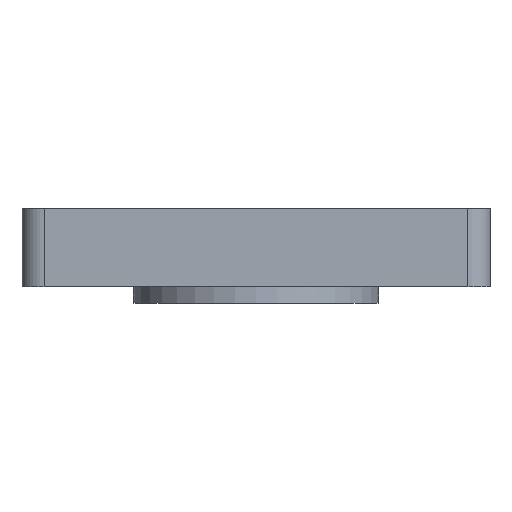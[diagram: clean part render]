
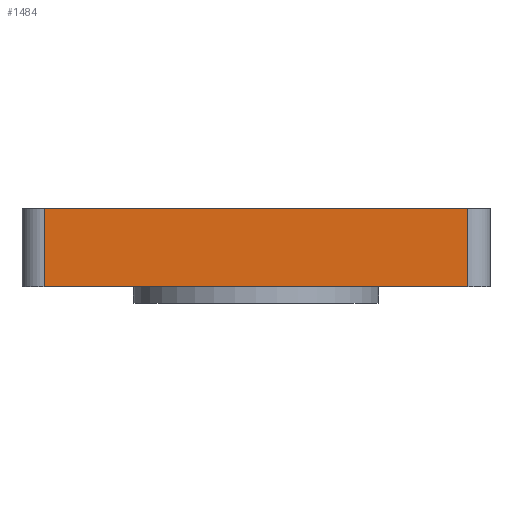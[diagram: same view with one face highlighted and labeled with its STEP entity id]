
A CAD part, front view. The second image highlights one B-rep face of the part: STEP entity #1484.
In plain terms, the highlighted planar face has unit normal (0, -1, 0).
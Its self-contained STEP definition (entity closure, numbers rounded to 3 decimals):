
#92 = EDGE_CURVE ( 'NONE', #1848, #1169, #1514, .T. ) ;
#146 = VECTOR ( 'NONE', #1212, 1000. ) ;
#220 = DIRECTION ( 'NONE',  ( 0., 0., 1. ) ) ;
#240 = CARTESIAN_POINT ( 'NONE',  ( 2., 0., 0. ) ) ;
#257 = ORIENTED_EDGE ( 'NONE', *, *, #92, .T. ) ;
#287 = EDGE_CURVE ( 'NONE', #1169, #1069, #2164, .T. ) ;
#380 = PLANE ( 'NONE',  #554 ) ;
#401 = DIRECTION ( 'NONE',  ( 1., 0., 0. ) ) ;
#439 = ORIENTED_EDGE ( 'NONE', *, *, #476, .F. ) ;
#468 = CARTESIAN_POINT ( 'NONE',  ( 0., 0., 7. ) ) ;
#476 = EDGE_CURVE ( 'NONE', #1848, #815, #1296, .T. ) ;
#551 = LINE ( 'NONE', #1934, #146 ) ;
#554 = AXIS2_PLACEMENT_3D ( 'NONE', #1045, #1729, #220 ) ;
#561 = EDGE_LOOP ( 'NONE', ( #1939, #680, #439, #257 ) ) ;
#656 = CARTESIAN_POINT ( 'NONE',  ( 40., 0., 0. ) ) ;
#680 = ORIENTED_EDGE ( 'NONE', *, *, #731, .T. ) ;
#731 = EDGE_CURVE ( 'NONE', #1069, #815, #551, .T. ) ;
#815 = VERTEX_POINT ( 'NONE', #1814 ) ;
#967 = DIRECTION ( 'NONE',  ( 1., 0., 0. ) ) ;
#1045 = CARTESIAN_POINT ( 'NONE',  ( 0., 0., 7. ) ) ;
#1069 = VERTEX_POINT ( 'NONE', #656 ) ;
#1122 = VECTOR ( 'NONE', #401, 1000. ) ;
#1133 = DIRECTION ( 'NONE',  ( 0., 0., -1. ) ) ;
#1169 = VERTEX_POINT ( 'NONE', #240 ) ;
#1194 = CARTESIAN_POINT ( 'NONE',  ( 2., 0., 7. ) ) ;
#1205 = FACE_OUTER_BOUND ( 'NONE', #561, .T. ) ;
#1212 = DIRECTION ( 'NONE',  ( 0., 0., 1. ) ) ;
#1296 = LINE ( 'NONE', #468, #1331 ) ;
#1330 = VECTOR ( 'NONE', #1133, 1000. ) ;
#1331 = VECTOR ( 'NONE', #967, 1000. ) ;
#1342 = CARTESIAN_POINT ( 'NONE',  ( 2., 0., 7. ) ) ;
#1484 = ADVANCED_FACE ( 'NONE', ( #1205 ), #380, .F. ) ;
#1514 = LINE ( 'NONE', #1342, #1330 ) ;
#1729 = DIRECTION ( 'NONE',  ( 0., 1., 0. ) ) ;
#1814 = CARTESIAN_POINT ( 'NONE',  ( 40., 0., 7. ) ) ;
#1848 = VERTEX_POINT ( 'NONE', #1194 ) ;
#1920 = CARTESIAN_POINT ( 'NONE',  ( 0., 0., 0. ) ) ;
#1934 = CARTESIAN_POINT ( 'NONE',  ( 40., 0., 7. ) ) ;
#1939 = ORIENTED_EDGE ( 'NONE', *, *, #287, .T. ) ;
#2164 = LINE ( 'NONE', #1920, #1122 ) ;
